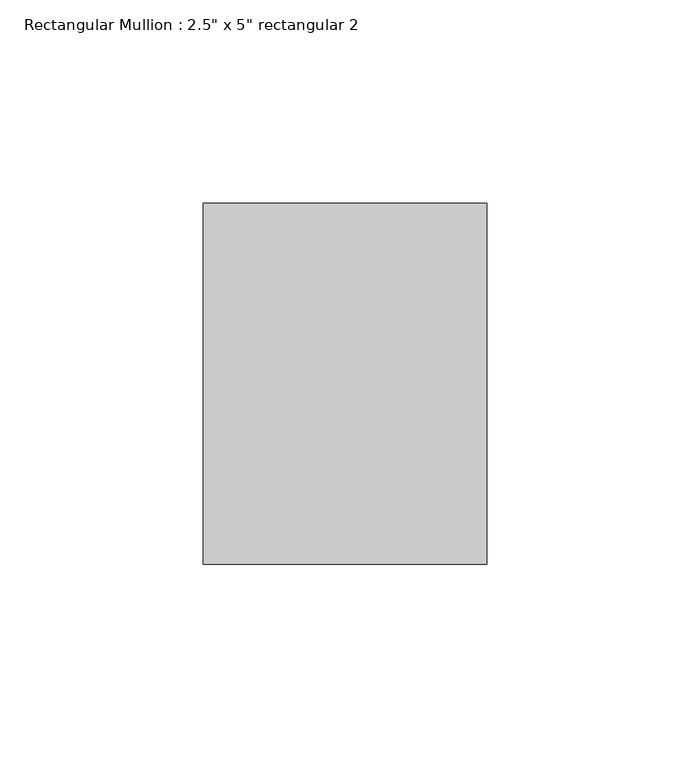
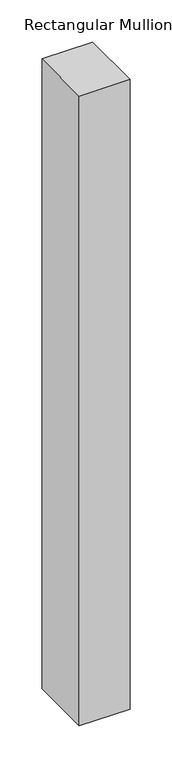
"""IFC4 building model written with IfcOpenShell, lengths in millimetres: member geometry."""

from ifc_helpers import new_model, si_unit, frame, origin, place, context, project, spatial, polyline, outline, extrude, source, transform, mapped, element, save


def member_a807efd3(model_context):
    return source(origin(), model_context, "Body", "SweptSolid", [
        extrude(outline(polyline([(0.0, 44.45), (0.0, -44.45), (-69.85, -44.45), (-69.85, 44.45), (0.0, 44.45)])), frame((0.0, 0.0, -914.183764), z_axis=(0.0, 0.0, 1.0), x_axis=(1.0, 0.0, 0.0)), (0.0, 0.0, 1.0), 914.183764),
    ])


if __name__ == "__main__":
    model = new_model("IFC4")
    model_context = context("Model", 3, world=origin())
    ifc_project = project(units=[si_unit("LENGTHUNIT", "METRE", prefix="MILLI")], contexts=[model_context])
    site = spatial("IfcSite", under=ifc_project)
    building = spatial("IfcBuilding", under=site)
    placement = place(None, origin())
    member_shape = member_a807efd3(model_context)
    element("IfcMember", 1, ObjectType="Rectangular Mullion : 2.5\" x 5\" rectangular 2", at=placement, inside=building, context=model_context, shape_type="MappedRepresentation", body=[
        mapped(member_shape, transform((0.0, 0.0, 0.0), x_axis=(1.0, 0.0, 0.0), y_axis=(0.0, 1.0, 0.0), z_axis=(0.0, 0.0, 1.0))),
    ])
    save(model, "model.ifc")
